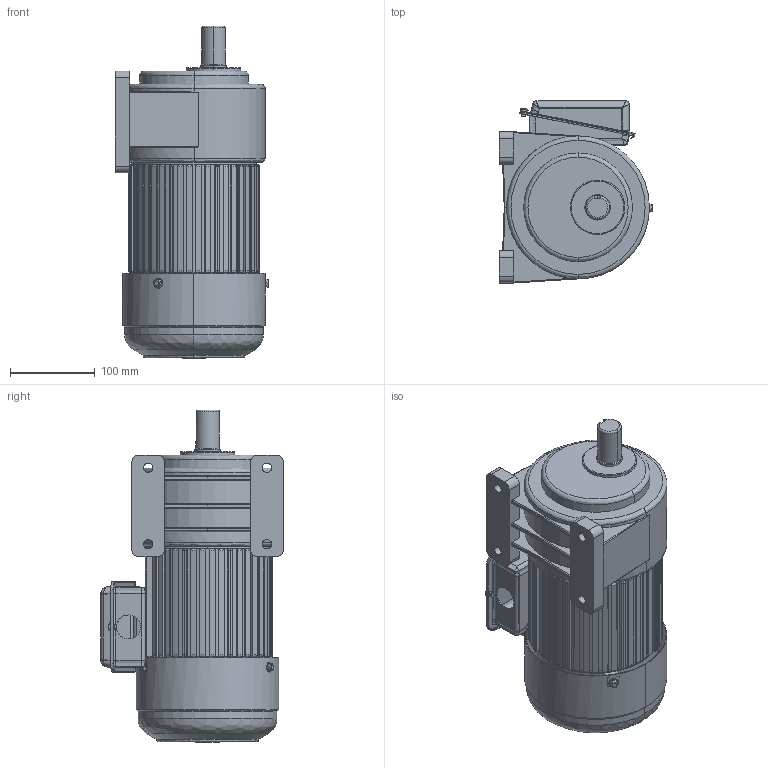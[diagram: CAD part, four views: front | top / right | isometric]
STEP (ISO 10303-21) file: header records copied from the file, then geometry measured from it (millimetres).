
FILE_DESCRIPTION (( 'STEP AP203' ), '1' );
FILE_NAME ('单相400W3#卧式.STEP', '2018-08-20T08:57:37', ( '微软中国' ), ( '微软用户' ), 'SwSTEP 2.0', 'SolidWorks 2012', '' );
FILE_SCHEMA (( 'CONFIG_CONTROL_DESIGN' ));
Length unit declared in the file: millimetre
Products named in the file (11): 等眈400W3#拏宒; 等眈400W; 等眈諉盄碟窒璃; Cross recessed pan head screws GB_GB_CROSS_SCREWS_TYPE1 M5X6-6  H type-N; 等眈諉盄碟釱; 等眈諉盄碟裔; 等眈 瑞欶400W; 棠憤迖殤400W; hex flange bolts-heavy grade b gb_GB_FASTENER_BOLT_HFBB M5X10-N; 400W儂褲; 3#拏宒熬厒ん
Assembly tree (12 placements, depth 4):
  等眈400W3#拏宒
    3#拏宒熬厒ん
    等眈400W
      400W儂褲
      hex flange bolts-heavy grade b gb_GB_FASTENER_BOLT_HFBB M5X10-N  x3
      棠憤迖殤400W
      等眈 瑞欶400W
      等眈諉盄碟窒璃
        等眈諉盄碟裔
        等眈諉盄碟釱
        Cross recessed pan head screws GB_GB_CROSS_SCREWS_TYPE1 M5X6-6  H type-N
Bounding box: 181.17 x 214.59 x 391 mm (x, y, z)
Volume: 3248162.3 mm3; surface area: 640816.6 mm2
Topology: 10 solids, 10 shells, 1338 faces, 3690 edges, 2390 vertices
Faces by surface type: plane 701, cylinder 431, bspline 160, torus 22, cone 22, sphere 2
Entity records: 47879 total; most frequent: CARTESIAN_POINT 14181, ORIENTED_EDGE 7148, DIRECTION 6205, EDGE_CURVE 3574, VERTEX_POINT 2330, LINE 2193, VECTOR 2193, AXIS2_PLACEMENT_3D 2006
